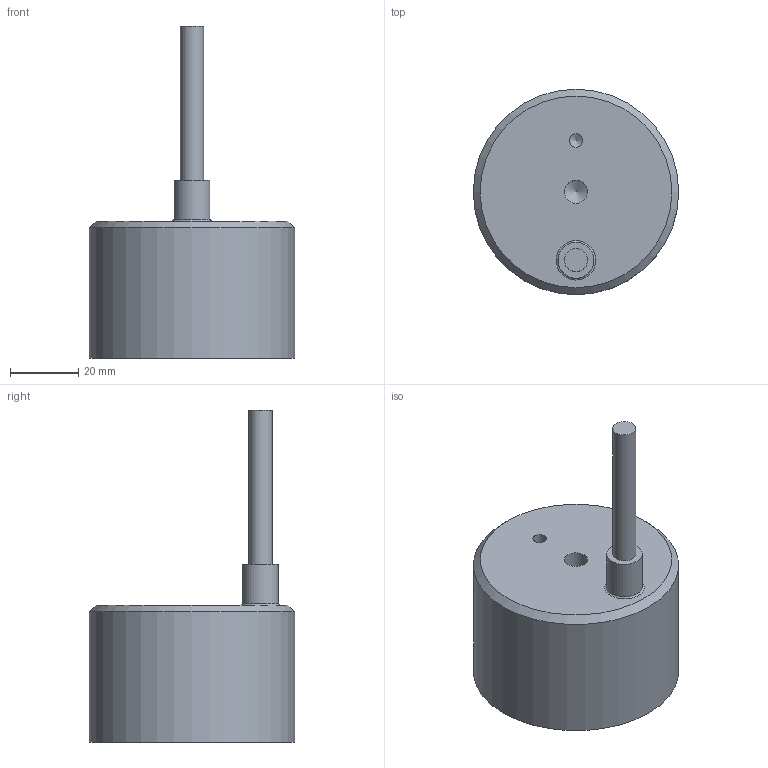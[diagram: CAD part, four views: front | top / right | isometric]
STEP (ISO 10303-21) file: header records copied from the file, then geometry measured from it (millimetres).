
FILE_DESCRIPTION(/* description */ (''),/* implementation_level */ '2;1');
FILE_NAME(/* name */ 'EMH-1-60Dx40H-V.step',/* time_stamp */ '2023-12-14T16:58:05+09:00',/* author */ (''),/* organization */ (''),/* preprocessor_version */ 'ST-DEVELOPER v20',/* originating_system */ 'Autodesk Translation Framework v12.14.0.127',/* authorisation */ '');
FILE_SCHEMA (('AUTOMOTIVE_DESIGN { 1 0 10303 214 3 1 1 }'));
Length unit declared in the file: millimetre
Products named in the file (3): EMH-1-60Dx40H-V; BODY; Cable
Assembly tree (2 placements, depth 2):
  EMH-1-60Dx40H-V
    BODY
    Cable
Bounding box: 60 x 60 x 97 mm (x, y, z)
Volume: 114598.7 mm3; surface area: 14700.5 mm2
Topology: 2 solids, 2 shells, 18 faces, 30 edges, 19 vertices
Faces by surface type: cylinder 7, plane 7, cone 3, torus 1
Full cylindrical faces by diameter (mm): 4 x1, 6.779 x1, 6.8 x1, 10.5 x1, 25 x1, 55 x1, 60 x1
Entity records: 534 total; most frequent: DIRECTION 92, CARTESIAN_POINT 70, ORIENTED_EDGE 56, AXIS2_PLACEMENT_3D 41, EDGE_CURVE 28, EDGE_LOOP 23, VERTEX_POINT 19, FACE_OUTER_BOUND 18
